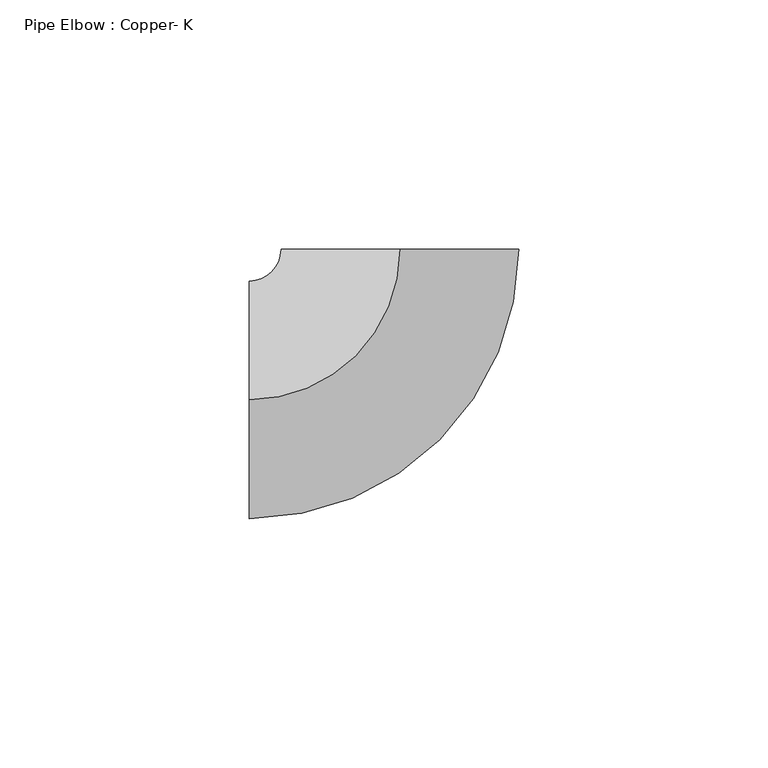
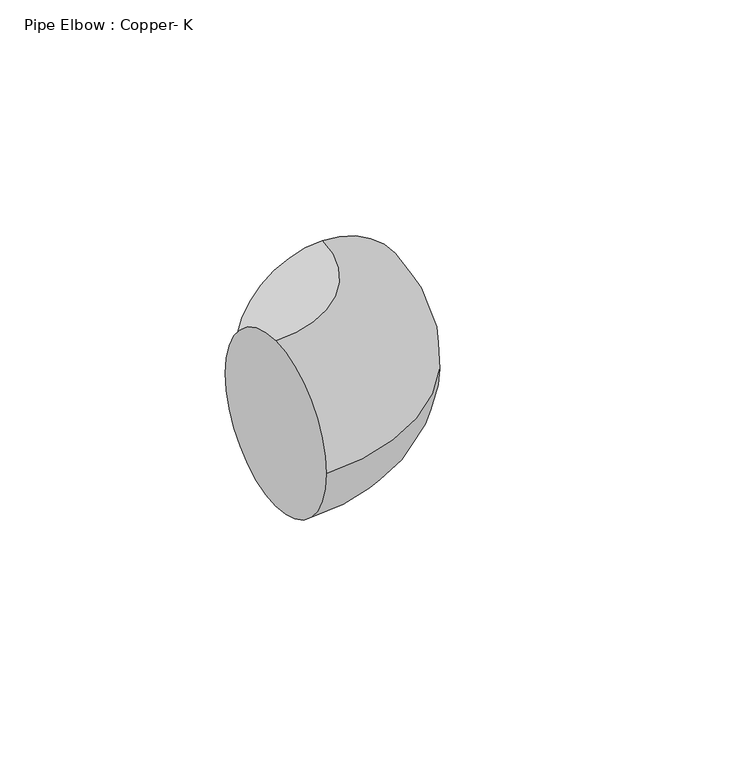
"""IFC4 building model written with IfcOpenShell, lengths in millimetres: pipe fitting geometry, Pipe Elbow : Copper- K."""

from ifc_helpers import new_model, si_unit, point, frame, origin, place, context, project, spatial, circle_curve, ellipse_curve, trimmed, source, transform, mapped, element, save
from ifc_brep_helpers import plane_surface, revolved_surface, advanced_brep


def pipe_elbow_copper_k_1479386e(model_context):
    return source(origin(), model_context, "Body", "AdvancedBrep", [
        advanced_brep(
        [(-30.1625005, 0.0, 23.8125), (-30.1625005, 23.8125, 0.0), (-30.1625005, 0.0, -23.8125), (-30.1625005, -23.8125, 0.0), (-5e-07, 30.1625005, 23.8125), (23.8124995, 30.1625009, 0.0), (-5e-07, 30.1625005, -23.8125), (-23.8125005, 30.1625001, 0.0)],
        [
            (0, 1, circle_curve(frame((-30.1625005, 0.0, 0.0), z_axis=(-1.0, 0.0, 0.0), x_axis=(0.0, 1.0, 0.0)), 23.8125)),
            (1, 2, circle_curve(frame((-30.1625005, 0.0, 0.0), z_axis=(-1.0, 0.0, 0.0), x_axis=(0.0, 1.0, 0.0)), 23.8125)),
            (2, 3, circle_curve(frame((-30.1625005, 0.0, 0.0), z_axis=(-1.0, 0.0, 0.0), x_axis=(0.0, 1.0, 0.0)), 23.8125)),
            (3, 0, circle_curve(frame((-30.1625005, 0.0, 0.0), z_axis=(-1.0, 0.0, 0.0), x_axis=(0.0, 1.0, 0.0)), 23.8125)),
            (4, 5, circle_curve(frame((-5e-07, 30.1625005, 0.0), z_axis=(-1.6765752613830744e-08, 0.9999999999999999, 0.0), x_axis=(-0.9999999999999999, -1.6765752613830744e-08, 0.0)), 23.8125)),
            (5, 6, circle_curve(frame((-5e-07, 30.1625005, 0.0), z_axis=(-1.6765752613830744e-08, 0.9999999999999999, 0.0), x_axis=(-0.9999999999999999, -1.6765752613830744e-08, 0.0)), 23.8125)),
            (6, 7, circle_curve(frame((-5e-07, 30.1625005, 0.0), z_axis=(-1.6765752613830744e-08, 0.9999999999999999, 0.0), x_axis=(-0.9999999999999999, -1.6765752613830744e-08, 0.0)), 23.8125)),
            (7, 4, circle_curve(frame((-5e-07, 30.1625005, 0.0), z_axis=(-1.6765752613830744e-08, 0.9999999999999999, 0.0), x_axis=(-0.9999999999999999, -1.6765752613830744e-08, 0.0)), 23.8125)),
            (7, 1, circle_curve(frame((-30.1625005, 30.1625, 0.0), z_axis=(0.0, 0.0, -1.0), x_axis=(0.0, -1.0, 0.0)), 6.35)),
            (0, 4, circle_curve(frame((-30.1625005, 30.1625, 23.8125), z_axis=(0.0, 0.0, 1.0), x_axis=(0.0, -1.0, 0.0)), 30.1625)),
            (6, 2, circle_curve(frame((-30.1625005, 30.1625, -23.8125), z_axis=(0.0, 0.0, -1.0), x_axis=(0.0, -1.0, 0.0)), 30.1625)),
            (5, 3, circle_curve(frame((-30.1625005, 30.1625, 0.0), z_axis=(0.0, 0.0, -1.0), x_axis=(0.0, -1.0, 0.0)), 53.975)),
        ],
        [
            plane_surface(frame((-30.1625005, 0.0, 0.0), z_axis=(-1.0, 0.0, 0.0), x_axis=(0.0, 0.0, 1.0))),
            plane_surface(frame((-5e-07, 30.1625005, 0.0), z_axis=(-1.6765752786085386e-08, 0.9999999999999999, 0.0), x_axis=(0.0, 0.0, 1.0))),
            revolved_surface(trimmed(ellipse_curve(frame((-30.1625005, 0.0, 0.0), z_axis=(-1.0, 0.0, 0.0), x_axis=(0.0, 1.0, 0.0)), 23.8125, 23.8125), [point((-30.1625005, 0.0, 23.8125))], [point((-30.1625005, 23.8125, 0.0))], True, "CARTESIAN"), (-30.1625005, 30.1625, 0.0), (0.0, 0.0, 1.0)),
            revolved_surface(trimmed(ellipse_curve(frame((-30.1625005, 0.0, 0.0), z_axis=(-1.0, 0.0, 0.0), x_axis=(0.0, 1.0, 0.0)), 23.8125, 23.8125), [point((-30.1625005, 23.8125, 0.0))], [point((-30.1625005, 0.0, -23.8125))], True, "CARTESIAN"), (-30.1625005, 30.1625, 0.0), (0.0, 0.0, 1.0)),
            revolved_surface(trimmed(ellipse_curve(frame((-30.1625005, 0.0, 0.0), z_axis=(-1.0, 0.0, 0.0), x_axis=(0.0, 1.0, 0.0)), 23.8125, 23.8125), [point((-30.1625005, 0.0, -23.8125))], [point((-30.1625005, -23.8125, 0.0))], True, "CARTESIAN"), (-30.1625005, 30.1625, 0.0), (0.0, 0.0, 1.0)),
            revolved_surface(trimmed(ellipse_curve(frame((-30.1625005, 0.0, 0.0), z_axis=(-1.0, 0.0, 0.0), x_axis=(0.0, 1.0, 0.0)), 23.8125, 23.8125), [point((-30.1625005, -23.8125, 0.0))], [point((-30.1625005, 0.0, 23.8125))], True, "CARTESIAN"), (-30.1625005, 30.1625, 0.0), (0.0, 0.0, 1.0)),
        ],
        [
            (0, [[1, 2, 3, 4]]),
            (1, [[5, 6, 7, 8]]),
            (2, [[9, -1, 10, -8]]),
            (3, [[11, -2, -9, -7]]),
            (4, [[12, -3, -11, -6]]),
            (5, [[-10, -4, -12, -5]]),
        ],
    ),
        advanced_brep(
        [(-30.1625005, 0.0, 23.8125), (-30.1625005, 23.8125, 0.0), (-30.1625005, 0.0, -23.8125), (-30.1625005, -23.8125, 0.0), (-5e-07, 30.1625005, 23.8125), (23.8124995, 30.1625009, 0.0), (-5e-07, 30.1625005, -23.8125), (-23.8125005, 30.1625001, 0.0)],
        [
            (0, 1, circle_curve(frame((-30.1625005, 0.0, 0.0), z_axis=(-1.0, 0.0, 0.0), x_axis=(0.0, 1.0, 0.0)), 23.8125)),
            (1, 2, circle_curve(frame((-30.1625005, 0.0, 0.0), z_axis=(-1.0, 0.0, 0.0), x_axis=(0.0, 1.0, 0.0)), 23.8125)),
            (2, 3, circle_curve(frame((-30.1625005, 0.0, 0.0), z_axis=(-1.0, 0.0, 0.0), x_axis=(0.0, 1.0, 0.0)), 23.8125)),
            (3, 0, circle_curve(frame((-30.1625005, 0.0, 0.0), z_axis=(-1.0, 0.0, 0.0), x_axis=(0.0, 1.0, 0.0)), 23.8125)),
            (4, 5, circle_curve(frame((-5e-07, 30.1625005, 0.0), z_axis=(-1.6765752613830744e-08, 0.9999999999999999, 0.0), x_axis=(-0.9999999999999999, -1.6765752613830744e-08, 0.0)), 23.8125)),
            (5, 6, circle_curve(frame((-5e-07, 30.1625005, 0.0), z_axis=(-1.6765752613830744e-08, 0.9999999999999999, 0.0), x_axis=(-0.9999999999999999, -1.6765752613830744e-08, 0.0)), 23.8125)),
            (6, 7, circle_curve(frame((-5e-07, 30.1625005, 0.0), z_axis=(-1.6765752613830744e-08, 0.9999999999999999, 0.0), x_axis=(-0.9999999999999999, -1.6765752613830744e-08, 0.0)), 23.8125)),
            (7, 4, circle_curve(frame((-5e-07, 30.1625005, 0.0), z_axis=(-1.6765752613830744e-08, 0.9999999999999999, 0.0), x_axis=(-0.9999999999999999, -1.6765752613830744e-08, 0.0)), 23.8125)),
            (7, 1, circle_curve(frame((-30.1625005, 30.1625, 0.0), z_axis=(0.0, 0.0, -1.0), x_axis=(0.0, -1.0, 0.0)), 6.35)),
            (0, 4, circle_curve(frame((-30.1625005, 30.1625, 23.8125), z_axis=(0.0, 0.0, 1.0), x_axis=(0.0, -1.0, 0.0)), 30.1625)),
            (6, 2, circle_curve(frame((-30.1625005, 30.1625, -23.8125), z_axis=(0.0, 0.0, -1.0), x_axis=(0.0, -1.0, 0.0)), 30.1625)),
            (5, 3, circle_curve(frame((-30.1625005, 30.1625, 0.0), z_axis=(0.0, 0.0, -1.0), x_axis=(0.0, -1.0, 0.0)), 53.975)),
        ],
        [
            plane_surface(frame((-30.1625005, 0.0, 0.0), z_axis=(-1.0, 0.0, 0.0), x_axis=(0.0, 0.0, 1.0))),
            plane_surface(frame((-5e-07, 30.1625005, 0.0), z_axis=(-1.6765752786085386e-08, 0.9999999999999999, 0.0), x_axis=(0.0, 0.0, 1.0))),
            revolved_surface(trimmed(ellipse_curve(frame((-30.1625005, 0.0, 0.0), z_axis=(-1.0, 0.0, 0.0), x_axis=(0.0, 1.0, 0.0)), 23.8125, 23.8125), [point((-30.1625005, 0.0, 23.8125))], [point((-30.1625005, 23.8125, 0.0))], True, "CARTESIAN"), (-30.1625005, 30.1625, 0.0), (0.0, 0.0, 1.0)),
            revolved_surface(trimmed(ellipse_curve(frame((-30.1625005, 0.0, 0.0), z_axis=(-1.0, 0.0, 0.0), x_axis=(0.0, 1.0, 0.0)), 23.8125, 23.8125), [point((-30.1625005, 23.8125, 0.0))], [point((-30.1625005, 0.0, -23.8125))], True, "CARTESIAN"), (-30.1625005, 30.1625, 0.0), (0.0, 0.0, 1.0)),
            revolved_surface(trimmed(ellipse_curve(frame((-30.1625005, 0.0, 0.0), z_axis=(-1.0, 0.0, 0.0), x_axis=(0.0, 1.0, 0.0)), 23.8125, 23.8125), [point((-30.1625005, 0.0, -23.8125))], [point((-30.1625005, -23.8125, 0.0))], True, "CARTESIAN"), (-30.1625005, 30.1625, 0.0), (0.0, 0.0, 1.0)),
            revolved_surface(trimmed(ellipse_curve(frame((-30.1625005, 0.0, 0.0), z_axis=(-1.0, 0.0, 0.0), x_axis=(0.0, 1.0, 0.0)), 23.8125, 23.8125), [point((-30.1625005, -23.8125, 0.0))], [point((-30.1625005, 0.0, 23.8125))], True, "CARTESIAN"), (-30.1625005, 30.1625, 0.0), (0.0, 0.0, 1.0)),
        ],
        [
            (0, [[1, 2, 3, 4]]),
            (1, [[5, 6, 7, 8]]),
            (2, [[9, -1, 10, -8]]),
            (3, [[11, -2, -9, -7]]),
            (4, [[12, -3, -11, -6]]),
            (5, [[-10, -4, -12, -5]]),
        ],
    ),
    ])


if __name__ == "__main__":
    model = new_model("IFC4")
    model_context = context("Model", 3, world=origin())
    ifc_project = project(units=[si_unit("LENGTHUNIT", "METRE", prefix="MILLI")], contexts=[model_context])
    site = spatial("IfcSite", under=ifc_project)
    building = spatial("IfcBuilding", under=site)
    placement = place(None, origin())
    pipe_elbow_copper_k_shape = pipe_elbow_copper_k_1479386e(model_context)
    element("IfcPipeFitting", 1, ObjectType="Pipe Elbow : Copper- K", at=placement, inside=building, context=model_context, shape_type="MappedRepresentation", body=[
        mapped(pipe_elbow_copper_k_shape, transform((0.0, 0.0, 0.0), x_axis=(1.0, 0.0, 0.0), y_axis=(0.0, 1.0, 0.0), z_axis=(0.0, 0.0, 1.0))),
    ])
    save(model, "model.ifc")
